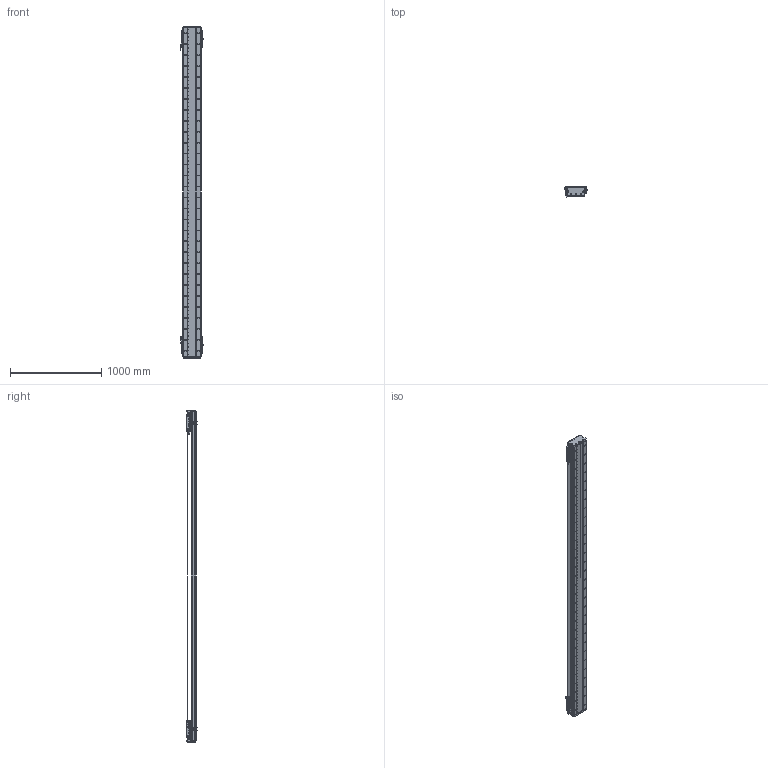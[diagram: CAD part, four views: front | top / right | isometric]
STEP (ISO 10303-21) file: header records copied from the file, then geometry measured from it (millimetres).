
FILE_DESCRIPTION (( 'STEP AP203' ), '1' );
FILE_NAME ('DA-C195-2-C2-T3140-C010-0.2 眻盄萇儂.STEP', '2025-08-14T02:16:22', ( '' ), ( '' ), 'SwSTEP 2.0', 'SolidWorks 2019', '' );
FILE_SCHEMA (( 'CONFIG_CONTROL_DESIGN' ));
Length unit declared in the file: millimetre
Products named in the file (19): DA-C195-GD-DB-H-00 傷啣-1; IU-CU195-L 菁釱絳寢-1; 葩璃 DA95-GT-T-00-1; DA195詩湍郪璃-1; DA195詩湍菜輸-1; IU-CU195-L-00 菁釱(L3600); PM-T45ㄗ侂狟ㄘ-1; DKW-GYP-ZJ-00 笢潔嫖萇覜茼え-1; DKW-KGZ-ZJ-00 中间光电开关支架-1; CU195-C2賑輸-俋楷-1; DA95-HXJ-00 遣喳砎蝶-1; MS200 棠掑喜S315-T1740-1; DA195詩湍裔啣-1; DA165-GYP-00 光电感应片(默认)-1; PM-Y65嫖萇羲壽郪璃-1; DA195詩湍嶺輸-1; DA-C195-2-C2-T3140-C010-0.2 眻盄萇儂; DKW168-HXJ-ZJ-00 笢潔滅袉砎蝶-1; LMT黍杅芛-1
Assembly tree (37 placements, depth 3):
  DA-C195-2-C2-T3140-C010-0.2 眻盄萇儂
    DA195詩湍郪璃-1
      DA195詩湍菜輸-1  x2
      DA195詩湍裔啣-1
      DA195詩湍嶺輸-1  x2
      DA95-HXJ-00 遣喳砎蝶-1  x8
      DA-C195-GD-DB-H-00 傷啣-1  x2
    IU-CU195-L 菁釱絳寢-1
      IU-CU195-L-00 菁釱(L3600)
      葩璃 DA95-GT-T-00-1  x4
    LMT黍杅芛-1  x2
    MS200 棠掑喜S315-T1740-1
    PM-T45ㄗ侂狟ㄘ-1  x4
    DA165-GYP-00 光电感应片(默认)-1  x2
    PM-Y65嫖萇羲壽郪璃-1
    DKW168-HXJ-ZJ-00 笢潔滅袉砎蝶-1
    DKW-GYP-ZJ-00 笢潔嫖萇覜茼え-1
    DKW-KGZ-ZJ-00 中间光电开关支架-1
    CU195-C2賑輸-俋楷-1  x2
Bounding box: 258.2 x 115.45 x 3640 mm (x, y, z)
Volume: 21396206 mm3; surface area: 6304363.7 mm2
Topology: 114 solids, 242 shells, 7425 faces, 20183 edges, 12625 vertices
Faces by surface type: cylinder 3700, plane 2641, cone 916, torus 88, sphere 72, bspline 8
Entity records: 172559 total; most frequent: CARTESIAN_POINT 48955, ORIENTED_EDGE 26198, DIRECTION 24410, EDGE_CURVE 13099, AXIS2_PLACEMENT_3D 9033, VERTEX_POINT 8512, VECTOR 6344, LINE 6344
